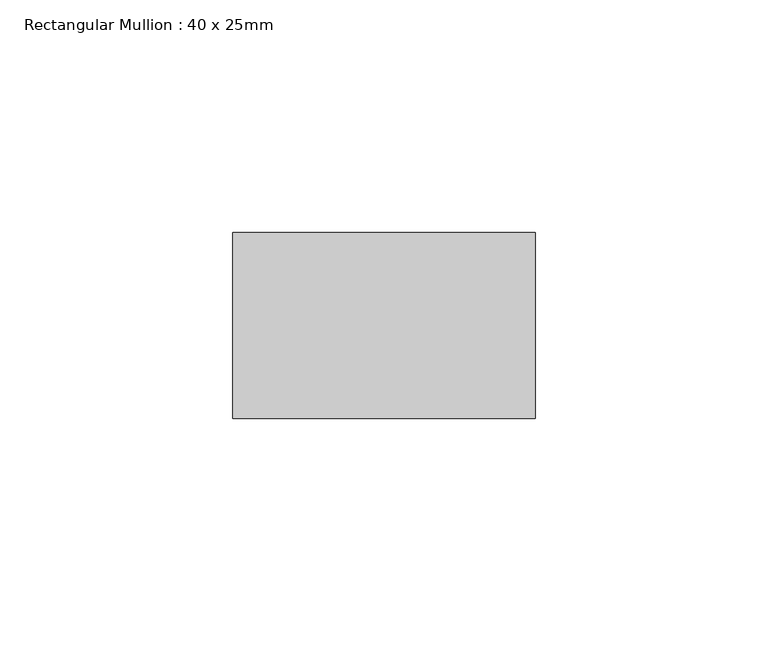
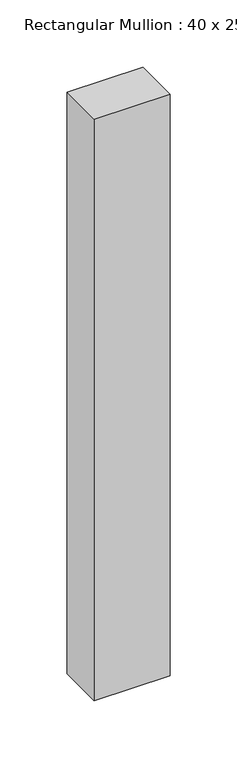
"""IFC4 building model written with IfcOpenShell, lengths in millimetres: member geometry, Rectangular Mullion : 40 x 25mm."""

from ifc_helpers import new_model, si_unit, frame, origin, place, context, project, spatial, polyline, outline, extrude, source, transform, mapped, element, save


def rectangular_mullion_40_x_25mm_a68a6d8a(model_context):
    return source(origin(), model_context, "Body", "SweptSolid", [
        extrude(outline(polyline([(0.0, -20.0), (0.0, -60.0), (-65.0, -60.0), (-65.0, -20.0), (0.0, -20.0)])), frame((0.0, 0.0, -527.1090935), z_axis=(0.0, 0.0, 1.0), x_axis=(1.0, 0.0, 0.0)), (0.0, 0.0, 1.0), 527.1090935),
    ])


if __name__ == "__main__":
    model = new_model("IFC4")
    model_context = context("Model", 3, world=origin())
    ifc_project = project(units=[si_unit("LENGTHUNIT", "METRE", prefix="MILLI")], contexts=[model_context])
    site = spatial("IfcSite", under=ifc_project)
    building = spatial("IfcBuilding", under=site)
    placement = place(None, origin())
    rectangular_mullion_40_x_25mm_shape = rectangular_mullion_40_x_25mm_a68a6d8a(model_context)
    element("IfcMember", 1, ObjectType="Rectangular Mullion : 40 x 25mm", at=placement, inside=building, context=model_context, shape_type="MappedRepresentation", body=[
        mapped(rectangular_mullion_40_x_25mm_shape, transform((0.0, 0.0, 0.0), x_axis=(1.0, 0.0, 0.0), y_axis=(0.0, 1.0, 0.0), z_axis=(0.0, 0.0, 1.0))),
    ])
    save(model, "model.ifc")
